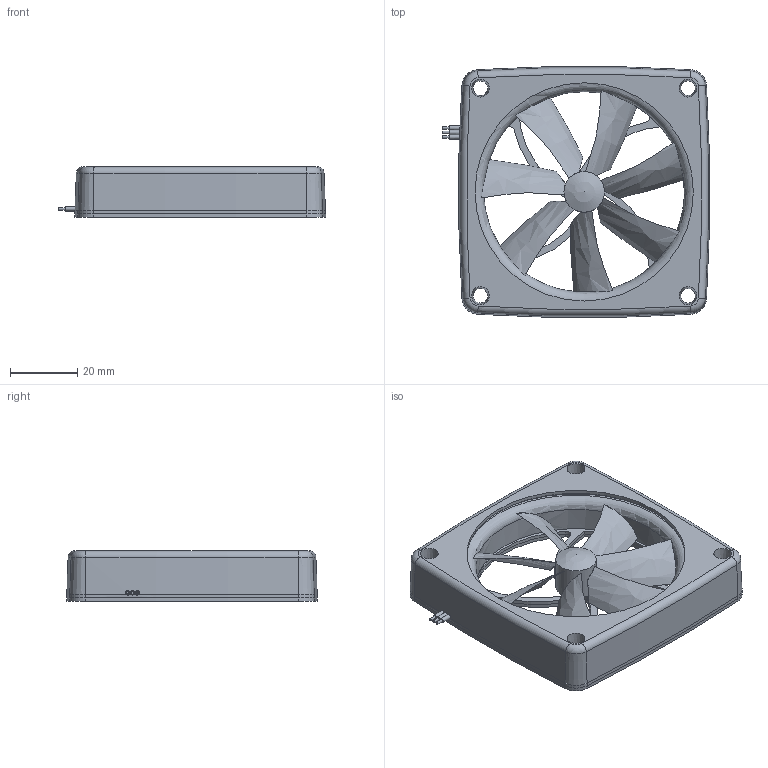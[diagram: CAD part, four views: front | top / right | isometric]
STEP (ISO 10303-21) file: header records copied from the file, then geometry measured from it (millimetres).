
FILE_DESCRIPTION( ( 'Unknown' ), '1' );
FILE_NAME( 'C:/Dokumente und Einstellungen/Klaus/Eigene Dateien/work_von_Emtwicklung/Work/Artikelstamm/Y.S.Tech/STEP-Daten/102180_Lüfter_Y-S_Tech.stp', 'Unknown', ( 'Unknown' ), ( 'Unknown' ), 'XStep 1.0', 'Solid Edge V16 SP6', ' ' );
FILE_SCHEMA( ( 'CONFIG_CONTROL_DESIGN' ) );
Length unit declared in the file: millimetre
Products named in the file (4): Assem1; propeller; gehaeuse; bodenplatte
Bounding box: 79.14 x 74.28 x 15 mm (x, y, z)
Volume: 35721.8 mm3; surface area: 58468.5 mm2
Topology: 6 solids, 6 shells, 252 faces, 684 edges, 448 vertices
Faces by surface type: cylinder 86, plane 52, cone 48, torus 36, bspline 28, sphere 2
Full cylindrical faces by diameter (mm): 0.75 x6, 1.3 x6, 3 x2, 4.3 x8, 12 x2, 59.5 x2, 64.7 x2, 67 x2
Entity records: 5113 total; most frequent: CARTESIAN_POINT 1932, DIRECTION 613, ORIENTED_EDGE 604, EDGE_CURVE 302, AXIS2_PLACEMENT_3D 281, VERTEX_POINT 210, EDGE_LOOP 192, CIRCLE 166
